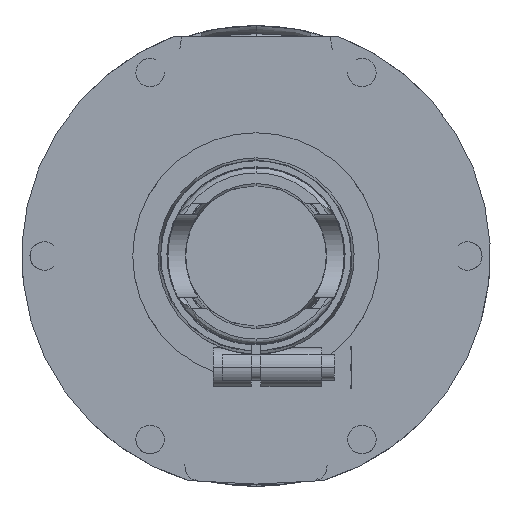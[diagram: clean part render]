
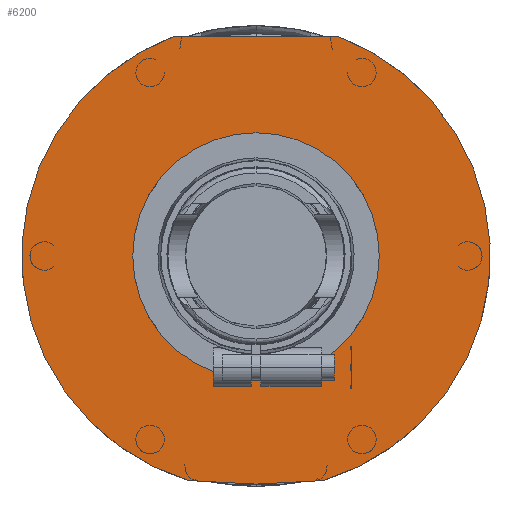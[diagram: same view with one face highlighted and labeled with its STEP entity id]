
A CAD part, front view. The second image highlights one B-rep face of the part: STEP entity #6200.
In plain terms, the highlighted planar face has unit normal (0, -1, 0).
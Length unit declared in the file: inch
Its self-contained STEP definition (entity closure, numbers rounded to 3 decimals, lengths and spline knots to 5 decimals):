
#3389=DIRECTION('',(-1.,0.,0.));
#3390=VECTOR('',#3389,1.96125);
#3391=CARTESIAN_POINT('',(0.98062,0.,2.66));
#3392=LINE('',#3391,#3390);
#3393=CARTESIAN_POINT('',(0.,0.,0.));
#3394=DIRECTION('',(0.,1.,0.));
#3395=DIRECTION('',(0.346,0.,0.938));
#3396=AXIS2_PLACEMENT_3D('',#3393,#3394,#3395);
#3398=CARTESIAN_POINT('',(0.80393,0.,-2.68733));
#3399=DIRECTION('',(0.,1.,0.));
#3400=DIRECTION('',(0.287,0.,-0.958));
#3401=AXIS2_PLACEMENT_3D('',#3398,#3399,#3400);
#3403=CARTESIAN_POINT('',(-0.80393,0.,-2.68733));
#3404=DIRECTION('',(0.,1.,0.));
#3405=DIRECTION('',(-0.052,0.,-0.999));
#3406=AXIS2_PLACEMENT_3D('',#3403,#3404,#3405);
#3408=CARTESIAN_POINT('',(0.,0.,0.));
#3409=DIRECTION('',(0.,1.,0.));
#3410=DIRECTION('',(-0.287,0.,-0.958));
#3411=AXIS2_PLACEMENT_3D('',#3408,#3409,#3410);
#4150=DIRECTION('',(0.999,0.,0.052));
#4151=VECTOR('',#4150,0.8066);
#4152=CARTESIAN_POINT('',(0.,0.,-2.7595));
#4153=LINE('',#4152,#4151);
#4224=DIRECTION('',(0.999,0.,-0.052));
#4225=VECTOR('',#4224,0.8066);
#4226=CARTESIAN_POINT('',(-0.8055,0.,-2.71729));
#4227=LINE('',#4226,#4225);
#5192=CARTESIAN_POINT('',(-0.98062,0.,2.66));
#5193=VERTEX_POINT('',#5192);
#5194=CARTESIAN_POINT('',(0.98062,0.,2.66));
#5195=VERTEX_POINT('',#5194);
#5216=CARTESIAN_POINT('',(-0.81253,0.,-2.71607));
#5217=VERTEX_POINT('',#5216);
#5218=CARTESIAN_POINT('',(0.81253,0.,-2.71607));
#5219=VERTEX_POINT('',#5218);
#5480=CARTESIAN_POINT('',(0.,0.,-2.7595));
#5481=CARTESIAN_POINT('',(0.8055,0.,-2.71729));
#5482=VERTEX_POINT('',#5480);
#5483=VERTEX_POINT('',#5481);
#5484=CARTESIAN_POINT('',(-0.8055,0.,-2.71729));
#5485=VERTEX_POINT('',#5484);
#6179=CARTESIAN_POINT('',(0.,0.,0.));
#6180=DIRECTION('',(0.,-1.,0.));
#6181=DIRECTION('',(0.,0.,1.));
#6182=AXIS2_PLACEMENT_3D('',#6179,#6180,#6181);
#6183=PLANE('',#6182);
#6185=ORIENTED_EDGE('',*,*,#6184,.F.);
#6187=ORIENTED_EDGE('',*,*,#6186,.T.);
#6189=ORIENTED_EDGE('',*,*,#6188,.T.);
#6191=ORIENTED_EDGE('',*,*,#6190,.F.);
#6193=ORIENTED_EDGE('',*,*,#6192,.F.);
#6195=ORIENTED_EDGE('',*,*,#6194,.T.);
#6197=ORIENTED_EDGE('',*,*,#6196,.T.);
#6198=EDGE_LOOP('',(#6185,#6187,#6189,#6191,#6193,#6195,#6197));
#6199=FACE_OUTER_BOUND('',#6198,.F.);
#6200=ADVANCED_FACE('',(#6199),#6183,.T.);
#3397=CIRCLE('',#3396,2.835);
#3402=CIRCLE('',#3401,0.03);
#3407=CIRCLE('',#3406,0.03);
#3412=CIRCLE('',#3411,2.835);
#6184=EDGE_CURVE('',#5195,#5193,#3392,.T.);
#6186=EDGE_CURVE('',#5195,#5219,#3397,.T.);
#6188=EDGE_CURVE('',#5219,#5483,#3402,.T.);
#6190=EDGE_CURVE('',#5482,#5483,#4153,.T.);
#6192=EDGE_CURVE('',#5485,#5482,#4227,.T.);
#6194=EDGE_CURVE('',#5485,#5217,#3407,.T.);
#6196=EDGE_CURVE('',#5217,#5193,#3412,.T.);
